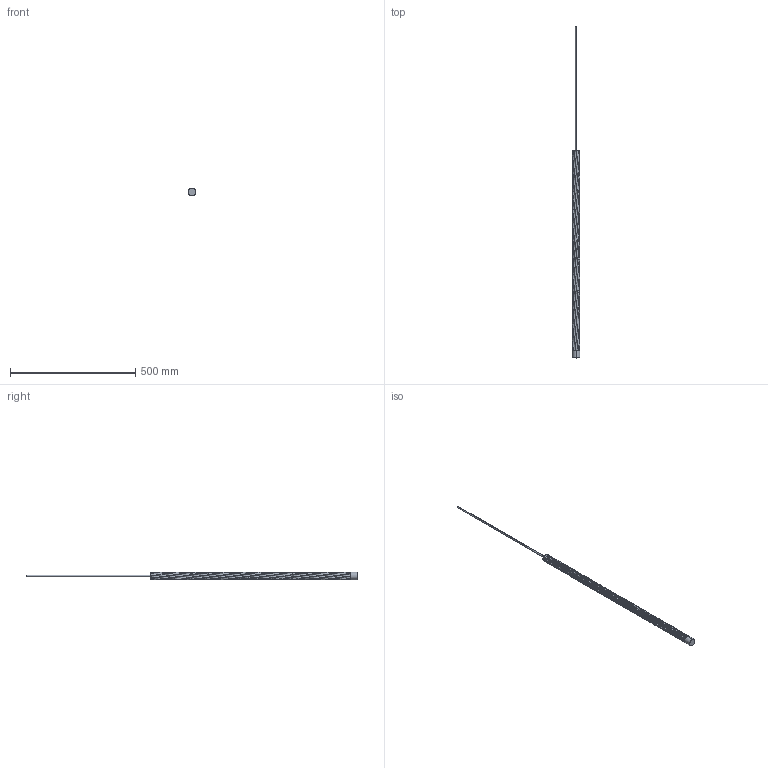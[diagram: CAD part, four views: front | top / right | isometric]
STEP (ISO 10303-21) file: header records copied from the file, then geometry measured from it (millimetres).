
FILE_DESCRIPTION (( 'STEP AP203' ), '1' );
FILE_NAME ('tob twist 80.STEP', '2022-11-21T00:06:47', ( '' ), ( '' ), 'SwSTEP 2.0', 'SolidWorks 2014', '' );
FILE_SCHEMA (( 'CONFIG_CONTROL_DESIGN' ));
Length unit declared in the file: millimetre
Products named in the file (1): tob twist 80
Bounding box: 30 x 1326 x 30 mm (x, y, z)
Volume: 485056.8 mm3; surface area: 119658.4 mm2
Topology: 3 solids, 3 shells, 275 faces, 704 edges, 436 vertices
Faces by surface type: bspline 144, cylinder 63, torus 37, plane 31
Entity records: 24587 total; most frequent: CARTESIAN_POINT 18875, ORIENTED_EDGE 1408, DIRECTION 865, EDGE_CURVE 704, VERTEX_POINT 436, AXIS2_PLACEMENT_3D 365, B_SPLINE_CURVE_WITH_KNOTS 336, EDGE_LOOP 278
